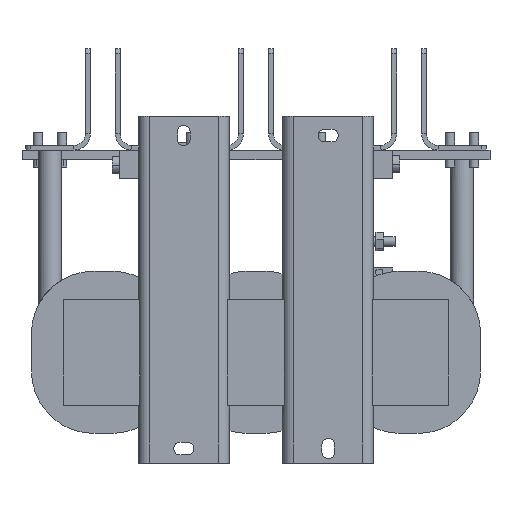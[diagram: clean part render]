
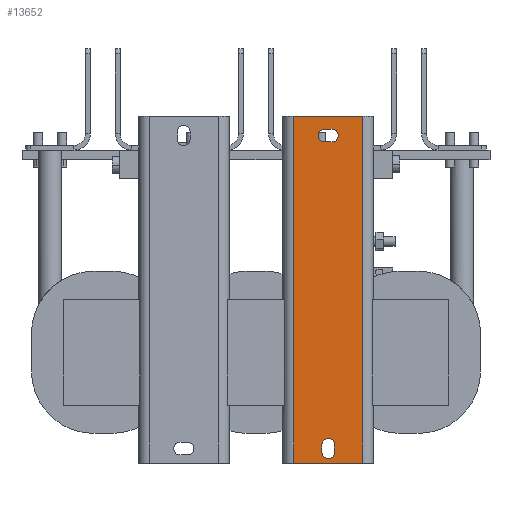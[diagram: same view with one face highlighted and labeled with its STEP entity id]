
A CAD part, front view. The second image highlights one B-rep face of the part: STEP entity #13652.
In plain terms, the highlighted planar face has unit normal (0, -1, 0).
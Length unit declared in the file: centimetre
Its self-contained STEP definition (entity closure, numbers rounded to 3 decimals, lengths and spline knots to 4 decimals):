
#88 = LINE ( 'NONE', #7194, #17174 ) ;
#218 = DIRECTION ( 'NONE',  ( 0., 1., 0. ) ) ;
#427 = VERTEX_POINT ( 'NONE', #16092 ) ;
#682 = VECTOR ( 'NONE', #17943, 100. ) ;
#825 = LINE ( 'NONE', #8271, #7491 ) ;
#1012 = DIRECTION ( 'NONE',  ( 0., 0., -1. ) ) ;
#1015 = CIRCLE ( 'NONE', #4722, 0.65 ) ;
#1818 = DIRECTION ( 'NONE',  ( 0., 1., 0. ) ) ;
#1837 = ORIENTED_EDGE ( 'NONE', *, *, #3921, .T. ) ;
#1996 = EDGE_CURVE ( 'NONE', #17038, #5240, #3382, .T. ) ;
#2111 = CARTESIAN_POINT ( 'NONE',  ( 7.5, 0., 24.5 ) ) ;
#2253 = FACE_BOUND ( 'NONE', #5097, .T. ) ;
#2539 = EDGE_CURVE ( 'NONE', #11942, #7215, #12910, .T. ) ;
#2700 = DIRECTION ( 'NONE',  ( 0., 0., 1. ) ) ;
#3113 = CARTESIAN_POINT ( 'NONE',  ( 8.15, 0., -9.6 ) ) ;
#3382 = CIRCLE ( 'NONE', #15660, 0.65 ) ;
#3785 = ORIENTED_EDGE ( 'NONE', *, *, #18683, .T. ) ;
#3921 = EDGE_CURVE ( 'NONE', #12929, #427, #14831, .T. ) ;
#4296 = DIRECTION ( 'NONE',  ( 0., 0., -1. ) ) ;
#4586 = EDGE_CURVE ( 'NONE', #427, #9542, #20229, .T. ) ;
#4722 = AXIS2_PLACEMENT_3D ( 'NONE', #10541, #15462, #12087 ) ;
#4996 = AXIS2_PLACEMENT_3D ( 'NONE', #7293, #1818, #14194 ) ;
#5097 = EDGE_LOOP ( 'NONE', ( #9986, #5665, #9667, #1837, #12669 ) ) ;
#5240 = VERTEX_POINT ( 'NONE', #8357 ) ;
#5299 = CARTESIAN_POINT ( 'NONE',  ( 11.1, 0., 24.5 ) ) ;
#5480 = CARTESIAN_POINT ( 'NONE',  ( 8.15, 0., -9.6 ) ) ;
#5665 = ORIENTED_EDGE ( 'NONE', *, *, #12302, .T. ) ;
#6056 = ORIENTED_EDGE ( 'NONE', *, *, #10652, .T. ) ;
#6373 = VECTOR ( 'NONE', #1012, 100. ) ;
#6824 = EDGE_CURVE ( 'NONE', #15708, #12929, #1015, .T. ) ;
#7132 = EDGE_LOOP ( 'NONE', ( #18808, #12001, #18401, #16321 ) ) ;
#7194 = CARTESIAN_POINT ( 'NONE',  ( 3.9, 0., -5.55 ) ) ;
#7215 = VERTEX_POINT ( 'NONE', #9976 ) ;
#7293 = CARTESIAN_POINT ( 'NONE',  ( 7.5, 0., -10.4 ) ) ;
#7329 = DIRECTION ( 'NONE',  ( 0., 0., 1. ) ) ;
#7491 = VECTOR ( 'NONE', #13533, 100. ) ;
#7904 = CARTESIAN_POINT ( 'NONE',  ( 3.9, 0., 24.5 ) ) ;
#8187 = VECTOR ( 'NONE', #20619, 100. ) ;
#8271 = CARTESIAN_POINT ( 'NONE',  ( 7.9, 0., 23.15 ) ) ;
#8357 = CARTESIAN_POINT ( 'NONE',  ( 7.9, 0., 21.85 ) ) ;
#8787 = CARTESIAN_POINT ( 'NONE',  ( 7.9, 0., 21.85 ) ) ;
#9148 = ORIENTED_EDGE ( 'NONE', *, *, #1996, .T. ) ;
#9190 = CARTESIAN_POINT ( 'NONE',  ( 7.9, 0., 22.5 ) ) ;
#9194 = CARTESIAN_POINT ( 'NONE',  ( 7.5, 0., -9.6 ) ) ;
#9359 = PLANE ( 'NONE',  #21386 ) ;
#9542 = VERTEX_POINT ( 'NONE', #20269 ) ;
#9667 = ORIENTED_EDGE ( 'NONE', *, *, #6824, .T. ) ;
#9669 = CARTESIAN_POINT ( 'NONE',  ( 7.9, 0., 23.15 ) ) ;
#9976 = CARTESIAN_POINT ( 'NONE',  ( 11.1, 0., -11.5 ) ) ;
#9986 = ORIENTED_EDGE ( 'NONE', *, *, #21012, .T. ) ;
#10094 = VECTOR ( 'NONE', #2700, 100. ) ;
#10265 = CARTESIAN_POINT ( 'NONE',  ( 7.5, 0., -8.95 ) ) ;
#10541 = CARTESIAN_POINT ( 'NONE',  ( 7.5, 0., -9.6 ) ) ;
#10652 = EDGE_CURVE ( 'NONE', #12215, #17038, #825, .T. ) ;
#10758 = ORIENTED_EDGE ( 'NONE', *, *, #11968, .T. ) ;
#11068 = DIRECTION ( 'NONE',  ( 0., 1., 0. ) ) ;
#11625 = CARTESIAN_POINT ( 'NONE',  ( 11.1, 0., -5.55 ) ) ;
#11921 = CARTESIAN_POINT ( 'NONE',  ( 7.1, 0., 22.5 ) ) ;
#11942 = VERTEX_POINT ( 'NONE', #5299 ) ;
#11968 = EDGE_CURVE ( 'NONE', #5240, #12070, #21246, .T. ) ;
#12001 = ORIENTED_EDGE ( 'NONE', *, *, #21314, .T. ) ;
#12070 = VERTEX_POINT ( 'NONE', #17025 ) ;
#12087 = DIRECTION ( 'NONE',  ( 0., 0., 1. ) ) ;
#12215 = VERTEX_POINT ( 'NONE', #14119 ) ;
#12302 = EDGE_CURVE ( 'NONE', #13483, #15708, #12895, .T. ) ;
#12342 = AXIS2_PLACEMENT_3D ( 'NONE', #11921, #15755, #22837 ) ;
#12669 = ORIENTED_EDGE ( 'NONE', *, *, #4586, .T. ) ;
#12895 = CIRCLE ( 'NONE', #16593, 0.65 ) ;
#12910 = LINE ( 'NONE', #11625, #6373 ) ;
#12929 = VERTEX_POINT ( 'NONE', #3113 ) ;
#13215 = FACE_BOUND ( 'NONE', #20098, .T. ) ;
#13483 = VERTEX_POINT ( 'NONE', #14151 ) ;
#13533 = DIRECTION ( 'NONE',  ( 1., 0., 0. ) ) ;
#13652 = ADVANCED_FACE ( 'NONE', ( #13215, #18191, #2253 ), #9359, .F. ) ;
#14119 = CARTESIAN_POINT ( 'NONE',  ( 7.1, 0., 23.15 ) ) ;
#14151 = CARTESIAN_POINT ( 'NONE',  ( 6.85, 0., -9.6 ) ) ;
#14194 = DIRECTION ( 'NONE',  ( 0., 0., 1. ) ) ;
#14475 = LINE ( 'NONE', #2111, #8187 ) ;
#14659 = VERTEX_POINT ( 'NONE', #19693 ) ;
#14731 = DIRECTION ( 'NONE',  ( 0., 0., 1. ) ) ;
#14831 = LINE ( 'NONE', #5480, #682 ) ;
#15462 = DIRECTION ( 'NONE',  ( 0., 1., 0. ) ) ;
#15660 = AXIS2_PLACEMENT_3D ( 'NONE', #9190, #11068, #19789 ) ;
#15708 = VERTEX_POINT ( 'NONE', #10265 ) ;
#15755 = DIRECTION ( 'NONE',  ( 0., 1., 0. ) ) ;
#16016 = DIRECTION ( 'NONE',  ( -1., 0., 0. ) ) ;
#16092 = CARTESIAN_POINT ( 'NONE',  ( 8.15, 0., -10.4 ) ) ;
#16321 = ORIENTED_EDGE ( 'NONE', *, *, #2539, .F. ) ;
#16466 = CARTESIAN_POINT ( 'NONE',  ( 7.5, 0., 6.5 ) ) ;
#16593 = AXIS2_PLACEMENT_3D ( 'NONE', #9194, #218, #7329 ) ;
#17025 = CARTESIAN_POINT ( 'NONE',  ( 7.1, 0., 21.85 ) ) ;
#17038 = VERTEX_POINT ( 'NONE', #9669 ) ;
#17121 = EDGE_CURVE ( 'NONE', #7215, #14659, #19427, .T. ) ;
#17174 = VECTOR ( 'NONE', #4296, 100. ) ;
#17230 = VECTOR ( 'NONE', #16016, 100. ) ;
#17543 = VERTEX_POINT ( 'NONE', #7904 ) ;
#17567 = DIRECTION ( 'NONE',  ( -1., 0., 0. ) ) ;
#17943 = DIRECTION ( 'NONE',  ( 0., 0., -1. ) ) ;
#18191 = FACE_OUTER_BOUND ( 'NONE', #7132, .T. ) ;
#18401 = ORIENTED_EDGE ( 'NONE', *, *, #17121, .F. ) ;
#18643 = LINE ( 'NONE', #19714, #10094 ) ;
#18683 = EDGE_CURVE ( 'NONE', #12070, #12215, #22373, .T. ) ;
#18808 = ORIENTED_EDGE ( 'NONE', *, *, #22680, .F. ) ;
#18971 = CARTESIAN_POINT ( 'NONE',  ( 7.5, 0., -11.5 ) ) ;
#18976 = VECTOR ( 'NONE', #17567, 100. ) ;
#19427 = LINE ( 'NONE', #18971, #18976 ) ;
#19693 = CARTESIAN_POINT ( 'NONE',  ( 3.9, 0., -11.5 ) ) ;
#19714 = CARTESIAN_POINT ( 'NONE',  ( 6.85, 0., -9.6 ) ) ;
#19789 = DIRECTION ( 'NONE',  ( 0., 0., 1. ) ) ;
#20098 = EDGE_LOOP ( 'NONE', ( #6056, #9148, #10758, #3785 ) ) ;
#20229 = CIRCLE ( 'NONE', #4996, 0.65 ) ;
#20269 = CARTESIAN_POINT ( 'NONE',  ( 6.85, 0., -10.4 ) ) ;
#20619 = DIRECTION ( 'NONE',  ( 1., 0., 0. ) ) ;
#21012 = EDGE_CURVE ( 'NONE', #9542, #13483, #18643, .T. ) ;
#21246 = LINE ( 'NONE', #8787, #17230 ) ;
#21314 = EDGE_CURVE ( 'NONE', #17543, #14659, #88, .T. ) ;
#21386 = AXIS2_PLACEMENT_3D ( 'NONE', #16466, #21920, #14731 ) ;
#21920 = DIRECTION ( 'NONE',  ( 0., 1., 0. ) ) ;
#22373 = CIRCLE ( 'NONE', #12342, 0.65 ) ;
#22680 = EDGE_CURVE ( 'NONE', #17543, #11942, #14475, .T. ) ;
#22837 = DIRECTION ( 'NONE',  ( 0., 0., 1. ) ) ;
